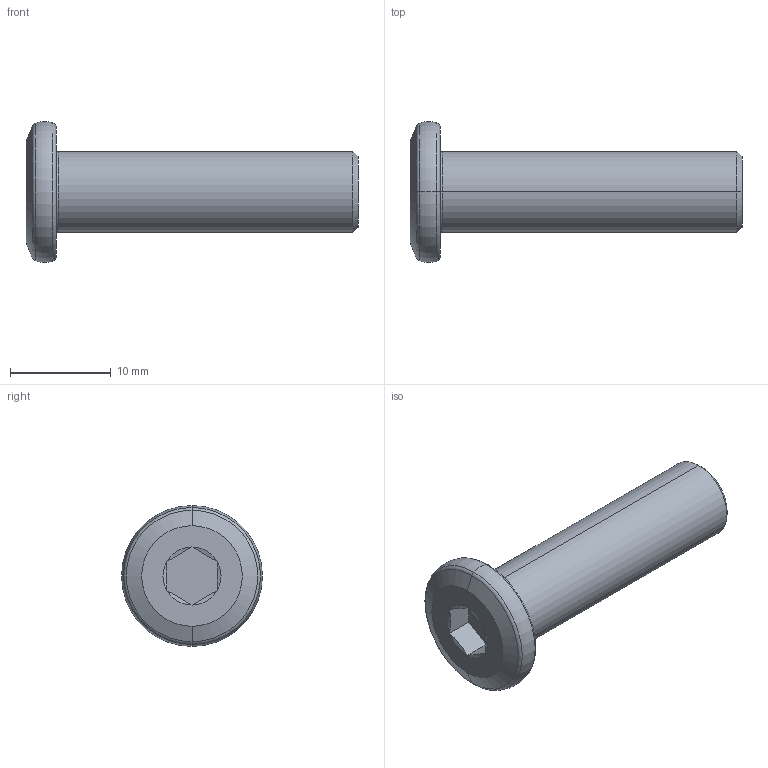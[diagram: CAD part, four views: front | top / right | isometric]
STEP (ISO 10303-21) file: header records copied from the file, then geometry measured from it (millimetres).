
FILE_DESCRIPTION (( 'STEP AP203' ), '1' );
FILE_NAME ('LGD-304D-M8x30.STEP', '2026-08-13T08:25:32', ( '' ), ( '' ), 'SwSTEP 2.0', 'SolidWorks 2020', '' );
FILE_SCHEMA (( 'CONFIG_CONTROL_DESIGN' ));
Length unit declared in the file: millimetre
Products named in the file (1): LGD-304D-M8x30
Bounding box: 33 x 14 x 14 mm (x, y, z)
Volume: 1866.4 mm3; surface area: 1178.1 mm2
Topology: 1 solids, 1 shells, 30 faces, 56 edges, 30 vertices
Faces by surface type: cone 10, plane 10, torus 8, cylinder 2
Entity records: 827 total; most frequent: DIRECTION 144, CARTESIAN_POINT 143, ORIENTED_EDGE 112, AXIS2_PLACEMENT_3D 63, EDGE_CURVE 56, EDGE_LOOP 32, CIRCLE 32, FACE_OUTER_BOUND 30
